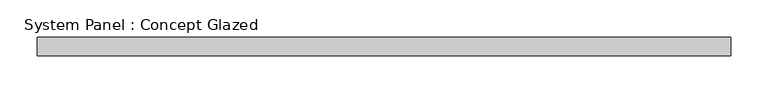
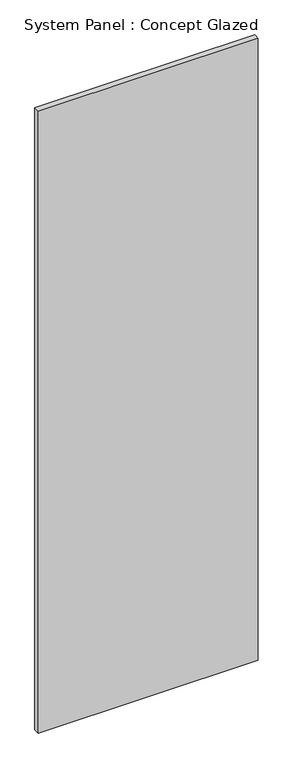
"""IFC4 building model written with IfcOpenShell, lengths in millimetres: plate geometry, System Panel : Concept Glazed."""

import ifcopenshell
import ifcopenshell.guid

model = None  # the IFC model being written
_history = None  # IfcOwnerHistory: only IFC2X3 demands one
_inside = {}  # id of a spatial element -> (the spatial element, [elements in it])
_under = {}  # id of a project, library or spatial element -> (it, [spatial elements below it])
_declared = {}  # id of a project -> (the project, [libraries it declares])
_typed = {}  # id of a type object -> (the type object, [elements of that type])
_made_of = {}  # id of a material, layer set ... -> (it, [elements and type objects made of it])


def new_model(schema):
    """Start an empty IFC model of exactly this schema.

    Asked for "IFC4X3", IfcOpenShell would pick the latest addendum, in which some entities
    have other attributes; the version numbers below select the first issue.
    IFC2X3 requires an IfcOwnerHistory on every rooted entity: one is made here for all.
    """
    global model, _history
    if schema == "IFC4X3":
        model = ifcopenshell.file(schema_version=(4, 3, 0, 0))
    else:
        model = ifcopenshell.file(schema=schema)
    _inside.clear()
    _under.clear()
    _declared.clear()
    _typed.clear()
    _made_of.clear()
    _history = None
    if model.schema == "IFC2X3":
        org = make("IfcOrganization", Name="unknown")
        user = make(
            "IfcPersonAndOrganization",
            ThePerson=make("IfcPerson", FamilyName="unknown"),
            TheOrganization=org,
        )
        app = make(
            "IfcApplication",
            ApplicationDeveloper=org,
            Version="unknown",
            ApplicationFullName="unknown",
            ApplicationIdentifier="unknown",
        )
        _history = make(
            "IfcOwnerHistory",
            OwningUser=user,
            OwningApplication=app,
            ChangeAction="ADDED",
            CreationDate=0,
        )
    return model


def make(cls, **values):
    """One entity of the class cls with the attributes given. An attribute that is None is left unset."""
    return model.create_entity(
        cls, **{name: value for name, value in values.items() if value is not None}
    )


def rooted(cls, **values):
    """An entity with a GlobalId (a new one), such as an element, a storey or a relation."""
    return make(cls, GlobalId=ifcopenshell.guid.new(), OwnerHistory=_history, **values)


def si_unit(unit_type, name, prefix=None):
    """IfcSIUnit, for example si_unit("LENGTHUNIT", "METRE", prefix="MILLI")."""
    return make("IfcSIUnit", UnitType=unit_type, Prefix=prefix, Name=name)


def assignment(units):
    """IfcUnitAssignment: the units of a project."""
    return None if units is None else make("IfcUnitAssignment", Units=units)


def point(xyz):
    """IfcCartesianPoint."""
    return None if xyz is None else make("IfcCartesianPoint", Coordinates=xyz)


def direction(xyz):
    """IfcDirection."""
    return None if xyz is None else make("IfcDirection", DirectionRatios=xyz)


def frame(location, z_axis=None, x_axis=None):
    """IfcAxis2Placement3D, a coordinate frame: its origin and axes. An axis left out is left unset."""
    return make(
        "IfcAxis2Placement3D",
        Location=point(location),
        Axis=direction(z_axis),
        RefDirection=direction(x_axis),
    )


def origin():
    """The frame at (0, 0, 0) with its axes left unset."""
    return frame((0.0, 0.0, 0.0))


def origin_with_axes():
    """The frame at (0, 0, 0) with the z axis (0, 0, 1) and the x axis (1, 0, 0) written out."""
    return frame((0.0, 0.0, 0.0), z_axis=(0.0, 0.0, 1.0), x_axis=(1.0, 0.0, 0.0))


def place(relative_to, where):
    """IfcLocalPlacement: puts the frame where relative to a parent placement (None: the world)."""
    return make(
        "IfcLocalPlacement", PlacementRelTo=relative_to, RelativePlacement=where
    )


def context(
    kind, dimensions, precision=None, world=None, true_north=None, identifier=None
):
    """IfcGeometricRepresentationContext, for example the 3D "Model" context."""
    return make(
        "IfcGeometricRepresentationContext",
        ContextIdentifier=identifier,
        ContextType=kind,
        CoordinateSpaceDimension=dimensions,
        Precision=precision,
        WorldCoordinateSystem=world,
        TrueNorth=true_north,
    )


def project(units=None, contexts=None):
    """IfcProject with its units and contexts."""
    return rooted(
        "IfcProject",
        Name="project",
        RepresentationContexts=contexts,
        UnitsInContext=assignment(units),
    )


def spatial(cls, under=None, at=None, **own):
    """A site, building, storey or space (cls), placed at a placement, below another one or the project."""
    s = rooted(cls, ObjectPlacement=at, **own)
    if under is not None:
        _under.setdefault(under.id(), (under, []))[1].append(s)
    return s


def polyline(points):
    """IfcPolyline through the points."""
    return make("IfcPolyline", Points=[point(p) for p in points])


def outline(outer, holes=None, kind="AREA"):
    """IfcArbitraryClosedProfileDef: a profile drawn as a closed curve; with holes, ...WithVoids."""
    if holes is None:
        return make("IfcArbitraryClosedProfileDef", ProfileType=kind, OuterCurve=outer)
    return make(
        "IfcArbitraryProfileDefWithVoids",
        ProfileType=kind,
        OuterCurve=outer,
        InnerCurves=holes,
    )


def extrude(swept, where, along, depth):
    """IfcExtrudedAreaSolid: the profile swept, set in the frame where, extruded along a direction by depth."""
    return make(
        "IfcExtrudedAreaSolid",
        SweptArea=swept,
        Position=where,
        ExtrudedDirection=direction(along),
        Depth=depth,
    )


def shape(context_of_items, identifier, shape_type, items):
    """IfcShapeRepresentation: the items that make up one representation, for example the "Body"."""
    return make(
        "IfcShapeRepresentation",
        ContextOfItems=context_of_items,
        RepresentationIdentifier=identifier,
        RepresentationType=shape_type,
        Items=items,
    )


def source(mapping_origin, context_of_items, identifier, shape_type, items):
    """IfcRepresentationMap: a shape defined once, which mapped items show again and again."""
    return make(
        "IfcRepresentationMap",
        MappingOrigin=mapping_origin,
        MappedRepresentation=shape(context_of_items, identifier, shape_type, items),
    )


def transform(
    local_origin,
    x_axis=None,
    y_axis=None,
    z_axis=None,
    scale=None,
    scale2=None,
    scale3=None,
    uniform=True,
):
    """IfcCartesianTransformationOperator3D, or its non-uniform kind. x_axis, y_axis, z_axis: its Axis1, 2, 3."""
    if uniform:
        return make(
            "IfcCartesianTransformationOperator3D",
            Axis1=direction(x_axis),
            Axis2=direction(y_axis),
            LocalOrigin=point(local_origin),
            Scale=scale,
            Axis3=direction(z_axis),
        )
    return make(
        "IfcCartesianTransformationOperator3DnonUniform",
        Axis1=direction(x_axis),
        Axis2=direction(y_axis),
        LocalOrigin=point(local_origin),
        Scale=scale,
        Axis3=direction(z_axis),
        Scale2=scale2,
        Scale3=scale3,
    )


def mapped(mapping_source, mapping_target):
    """IfcMappedItem: shows the shape of a source again, moved by a transform."""
    return make(
        "IfcMappedItem", MappingSource=mapping_source, MappingTarget=mapping_target
    )


def made_of(thing, what):
    """Note that an element or type object is made of a material, layer set ...; save() writes the relation."""
    if what is not None:
        _made_of.setdefault(what.id(), (what, []))[1].append(thing)
    return thing


def element(
    cls,
    number,
    at=None,
    inside=None,
    cuts=None,
    type_object=None,
    material=None,
    context=None,
    identifier="Body",
    shape_type=None,
    held_by="IfcProductDefinitionShape",
    body=None,
    shapes=None,
    **own,
):
    """One element of the class cls, such as IfcWall. Its Tag is "e" and its number.

    at: its placement. inside: the storey or other place that contains it. cuts: it is an
    opening in that element (IfcRelVoidsElement). A single representation is given by context,
    identifier, shape_type and body (its items); several are given by shapes. held_by: the class
    of the entity that holds the representations. save() writes the other relations.
    """
    e = rooted(cls, Tag="e%d" % number, ObjectPlacement=at, **own)
    if body is not None:
        shapes = [shape(context, identifier, shape_type, body)]
    if shapes is not None:
        e.Representation = make(held_by, Representations=shapes)
    if inside is not None:
        _inside.setdefault(inside.id(), (inside, []))[1].append(e)
    if cuts is not None:
        rooted(
            "IfcRelVoidsElement", RelatingBuildingElement=cuts, RelatedOpeningElement=e
        )
    if type_object is not None:
        _typed.setdefault(type_object.id(), (type_object, []))[1].append(e)
    return made_of(e, material)


def aggregate(whole, parts):
    """IfcRelAggregates: a whole, such as a stair, and the parts it consists of."""
    return rooted("IfcRelAggregates", RelatingObject=whole, RelatedObjects=parts)


def save(model, path):
    """Write the relations noted so far, then the file.

    IfcRelAggregates (storeys below a building ...), IfcRelContainedInSpatialStructure (elements
    in a storey), IfcRelDefinesByType, IfcRelAssociatesMaterial and IfcRelDeclares: one each for
    every whole, place, type object, material and project.
    """
    for whole, parts in _under.values():
        aggregate(whole, parts)
    for where, things in _inside.values():
        rooted(
            "IfcRelContainedInSpatialStructure",
            RelatedElements=things,
            RelatingStructure=where,
        )
    for kind, things in _typed.values():
        rooted("IfcRelDefinesByType", RelatedObjects=things, RelatingType=kind)
    for what, things in _made_of.values():
        rooted("IfcRelAssociatesMaterial", RelatedObjects=things, RelatingMaterial=what)
    for by, libraries in _declared.values():
        rooted("IfcRelDeclares", RelatingContext=by, RelatedDefinitions=libraries)
    model.write(path)


def system_panel_concept_glazed_3c9a5405(model_context):
    return source(origin(), model_context, "Body", "SweptSolid", [
        extrude(outline(polyline([(468.75, -52.5), (-468.75, -52.5), (-468.75, -27.5), (468.75, -27.5), (468.75, -52.5)])), origin_with_axes(), (0.0, 0.0, 1.0), 2800.0),
    ])


if __name__ == "__main__":
    model = new_model("IFC4")
    model_context = context("Model", 3, world=origin())
    ifc_project = project(units=[si_unit("LENGTHUNIT", "METRE", prefix="MILLI")], contexts=[model_context])
    site = spatial("IfcSite", under=ifc_project)
    building = spatial("IfcBuilding", under=site)
    placement = place(None, origin())
    system_panel_concept_glazed_shape = system_panel_concept_glazed_3c9a5405(model_context)
    element("IfcPlate", 1, ObjectType="System Panel : Concept Glazed", at=placement, inside=building, context=model_context, shape_type="MappedRepresentation", body=[
        mapped(system_panel_concept_glazed_shape, transform((0.0, 0.0, 0.0), x_axis=(1.0, 0.0, 0.0), y_axis=(0.0, 1.0, 0.0), z_axis=(0.0, 0.0, 1.0))),
    ])
    save(model, "model.ifc")
